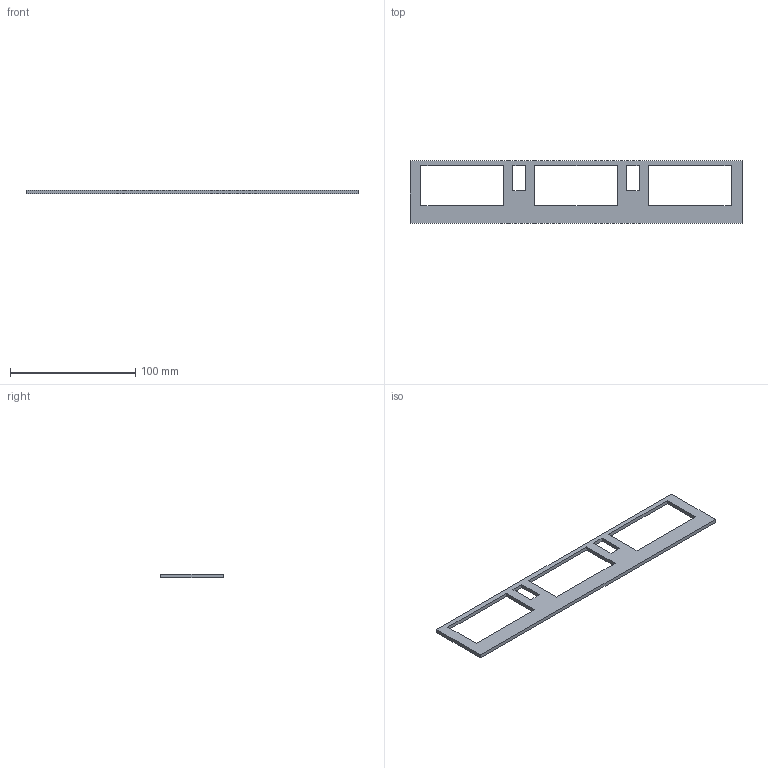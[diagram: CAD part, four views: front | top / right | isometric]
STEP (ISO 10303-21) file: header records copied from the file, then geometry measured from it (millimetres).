
FILE_DESCRIPTION(/* description */ (''),/* implementation_level */ '2;1');
FILE_NAME(/* name */ '/Users/manuelf/box/LHCB/Backplane/2020-01-01_spacers_step/top_spacer_v2.step',/* time_stamp */ '2020-01-01T11:26:48-05:00',/* author */ (''),/* organization */ (''),/* preprocessor_version */ 'ST-DEVELOPER v18',/* originating_system */ 'Autodesk Translation Framework v8.12.0.6',/* authorisation */ '');
FILE_SCHEMA (('AUTOMOTIVE_DESIGN { 1 0 10303 214 3 1 1 }'));
Length unit declared in the file: millimetre
Products named in the file (1): Top_Sep_Full
Bounding box: 265.5 x 49.72 x 3 mm (x, y, z)
Volume: 19352.2 mm3; surface area: 16919.2 mm2
Topology: 1 solids, 1 shells, 26 faces, 72 edges, 48 vertices
Faces by surface type: plane 26
Entity records: 876 total; most frequent: CARTESIAN_POINT 147, ORIENTED_EDGE 144, DIRECTION 126, LINE 72, VECTOR 72, EDGE_CURVE 72, VERTEX_POINT 48, EDGE_LOOP 36
